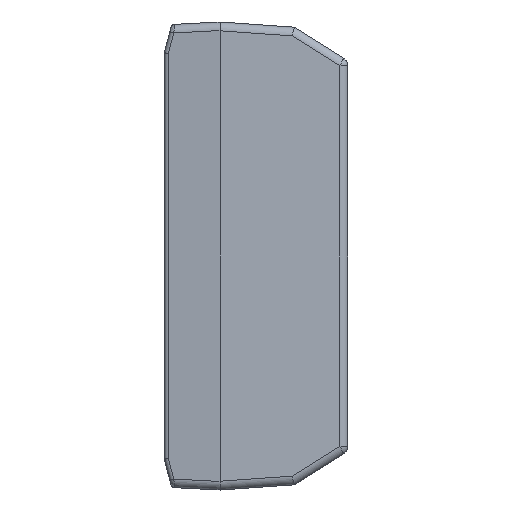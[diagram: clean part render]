
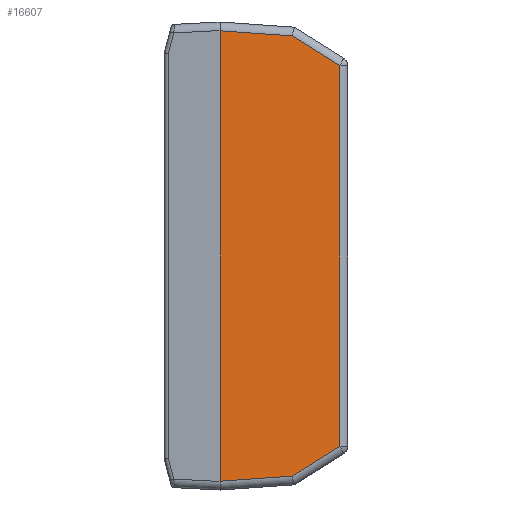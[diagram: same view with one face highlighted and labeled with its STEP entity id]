
A CAD part, left-side view. The second image highlights one B-rep face of the part: STEP entity #16607.
In plain terms, the highlighted planar face has unit normal (-0.998, -0.07, 0).
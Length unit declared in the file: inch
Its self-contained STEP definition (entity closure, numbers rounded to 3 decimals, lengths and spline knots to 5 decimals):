
#2046 = EDGE_CURVE ( 'NONE', #51554, #8922, #22464, .T. ) ;
#2422 = CARTESIAN_POINT ( 'NONE',  ( -2.97446, -0.22216, -1.55762 ) ) ;
#3411 = VECTOR ( 'NONE', #31555, 39.37008 ) ;
#3433 = VECTOR ( 'NONE', #6316, 39.37008 ) ;
#4683 = VECTOR ( 'NONE', #92982, 39.37008 ) ;
#6316 = DIRECTION ( 'NONE',  ( -0.059, 0.847, 0.529 ) ) ;
#8922 = VERTEX_POINT ( 'NONE', #21502 ) ;
#10544 = LINE ( 'NONE', #2422, #3411 ) ;
#10869 = CARTESIAN_POINT ( 'NONE',  ( -2.99, 0., -1.57315 ) ) ;
#11425 = ORIENTED_EDGE ( 'NONE', *, *, #42282, .T. ) ;
#12371 = EDGE_CURVE ( 'NONE', #8922, #48555, #52337, .T. ) ;
#15245 = DIRECTION ( 'NONE',  ( 0., 0., -1. ) ) ;
#15769 = ORIENTED_EDGE ( 'NONE', *, *, #51771, .T. ) ;
#16607 = ADVANCED_FACE ( 'NONE', ( #83977 ), #59209, .T. ) ;
#17612 = CARTESIAN_POINT ( 'NONE',  ( -2.93159, -0.83532, 1.635 ) ) ;
#18449 = LINE ( 'NONE', #30133, #48103 ) ;
#19924 = VERTEX_POINT ( 'NONE', #10869 ) ;
#20428 = CARTESIAN_POINT ( 'NONE',  ( -2.93159, -0.83532, 1.33059 ) ) ;
#21235 = VECTOR ( 'NONE', #62836, 39.37008 ) ;
#21502 = CARTESIAN_POINT ( 'NONE',  ( -2.93159, -0.83532, -1.33059 ) ) ;
#22464 = LINE ( 'NONE', #70485, #21235 ) ;
#22664 = ORIENTED_EDGE ( 'NONE', *, *, #2046, .T. ) ;
#22668 = DIRECTION ( 'NONE',  ( -0.998, -0.07, 0. ) ) ;
#25897 = LINE ( 'NONE', #66891, #3433 ) ;
#28141 = EDGE_CURVE ( 'NONE', #19924, #51554, #10544, .T. ) ;
#30133 = CARTESIAN_POINT ( 'NONE',  ( -2.99, 0., 1.635 ) ) ;
#31236 = EDGE_CURVE ( 'NONE', #33105, #19924, #18449, .T. ) ;
#31555 = DIRECTION ( 'NONE',  ( 0.07, -0.995, 0.07 ) ) ;
#32732 = ORIENTED_EDGE ( 'NONE', *, *, #31236, .T. ) ;
#33105 = VERTEX_POINT ( 'NONE', #67107 ) ;
#35392 = CARTESIAN_POINT ( 'NONE',  ( -2.95479, -0.50349, -1.53794 ) ) ;
#36672 = AXIS2_PLACEMENT_3D ( 'NONE', #97940, #22668, #75729 ) ;
#42282 = EDGE_CURVE ( 'NONE', #48555, #57418, #25897, .T. ) ;
#48103 = VECTOR ( 'NONE', #15245, 39.37008 ) ;
#48555 = VERTEX_POINT ( 'NONE', #20428 ) ;
#51554 = VERTEX_POINT ( 'NONE', #35392 ) ;
#51771 = EDGE_CURVE ( 'NONE', #57418, #33105, #88752, .T. ) ;
#52337 = LINE ( 'NONE', #17612, #67753 ) ;
#56230 = EDGE_LOOP ( 'NONE', ( #11425, #15769, #32732, #59401, #22664, #65650 ) ) ;
#57418 = VERTEX_POINT ( 'NONE', #75216 ) ;
#59209 = PLANE ( 'NONE',  #36672 ) ;
#59401 = ORIENTED_EDGE ( 'NONE', *, *, #28141, .T. ) ;
#62836 = DIRECTION ( 'NONE',  ( 0.059, -0.847, 0.529 ) ) ;
#65650 = ORIENTED_EDGE ( 'NONE', *, *, #12371, .T. ) ;
#66891 = CARTESIAN_POINT ( 'NONE',  ( -2.95592, -0.48738, 1.54801 ) ) ;
#67107 = CARTESIAN_POINT ( 'NONE',  ( -2.99, 0., 1.57315 ) ) ;
#67753 = VECTOR ( 'NONE', #78551, 39.37008 ) ;
#70485 = CARTESIAN_POINT ( 'NONE',  ( -2.92976, -0.86147, -1.31425 ) ) ;
#75216 = CARTESIAN_POINT ( 'NONE',  ( -2.95479, -0.50349, 1.53794 ) ) ;
#75729 = DIRECTION ( 'NONE',  ( 0.07, -0.998, 0. ) ) ;
#78551 = DIRECTION ( 'NONE',  ( 0., 0., 1. ) ) ;
#83977 = FACE_OUTER_BOUND ( 'NONE', #56230, .T. ) ;
#86400 = CARTESIAN_POINT ( 'NONE',  ( -2.9903, 0.00428, 1.57345 ) ) ;
#88752 = LINE ( 'NONE', #86400, #4683 ) ;
#92982 = DIRECTION ( 'NONE',  ( -0.07, 0.995, 0.07 ) ) ;
#97940 = CARTESIAN_POINT ( 'NONE',  ( -2.99, 0., 1.635 ) ) ;
